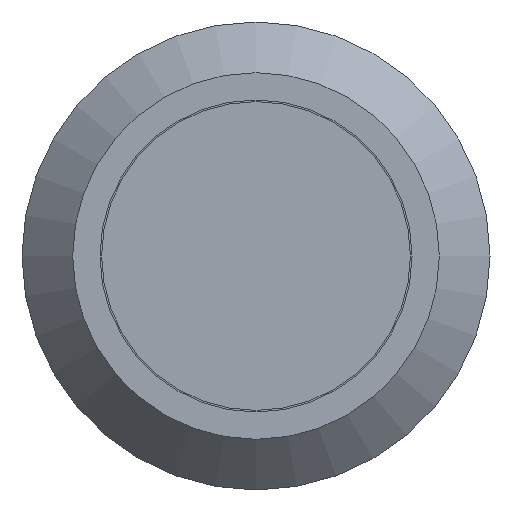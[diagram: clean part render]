
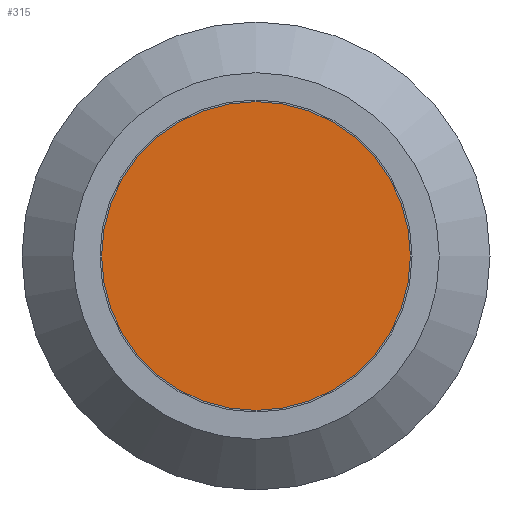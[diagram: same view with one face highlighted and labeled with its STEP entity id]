
A CAD part, front view. The second image highlights one B-rep face of the part: STEP entity #315.
In plain terms, the highlighted planar face has unit normal (0, -1, 0).
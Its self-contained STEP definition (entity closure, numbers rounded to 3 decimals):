
#96=ORIENTED_EDGE('',*,*,#164,.T.);
#164=EDGE_CURVE('',#202,#202,#223,.T.);
#202=VERTEX_POINT('',#512);
#223=CIRCLE('',#357,1.98);
#246=EDGE_LOOP('',(#96));
#276=FACE_BOUND('',#246,.T.);
#294=PLANE('',#358);
#315=ADVANCED_FACE('',(#276),#294,.F.);
#357=AXIS2_PLACEMENT_3D('',#511,#416,#417);
#358=AXIS2_PLACEMENT_3D('',#513,#418,#419);
#416=DIRECTION('',(0.,-1.,0.));
#417=DIRECTION('',(1.,0.,0.));
#418=DIRECTION('',(0.,1.,0.));
#419=DIRECTION('',(-1.,0.,0.));
#511=CARTESIAN_POINT('',(0.,0.,0.));
#512=CARTESIAN_POINT('',(1.98,0.,0.));
#513=CARTESIAN_POINT('',(1.98,0.,0.));
